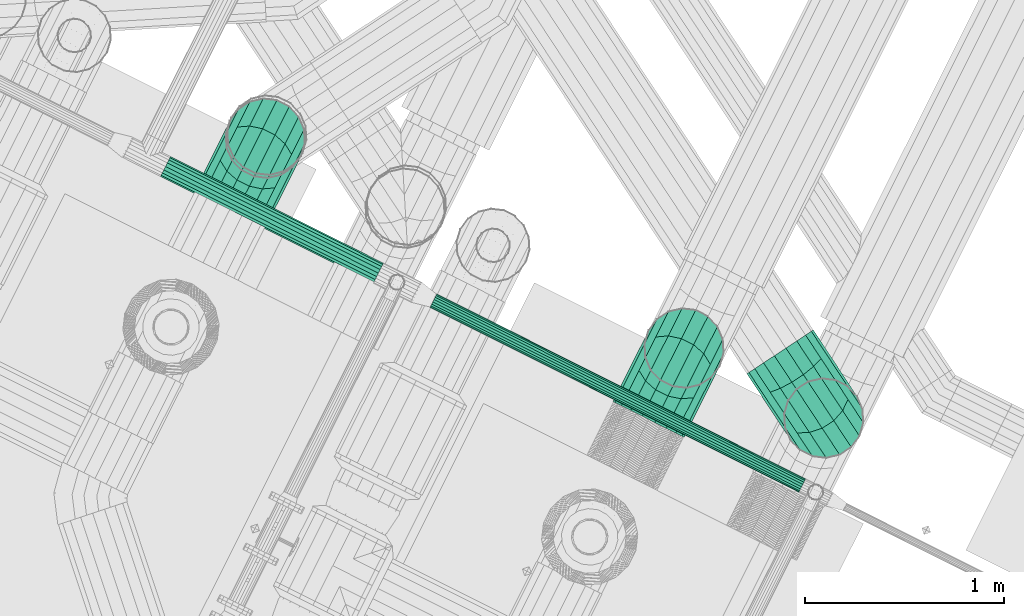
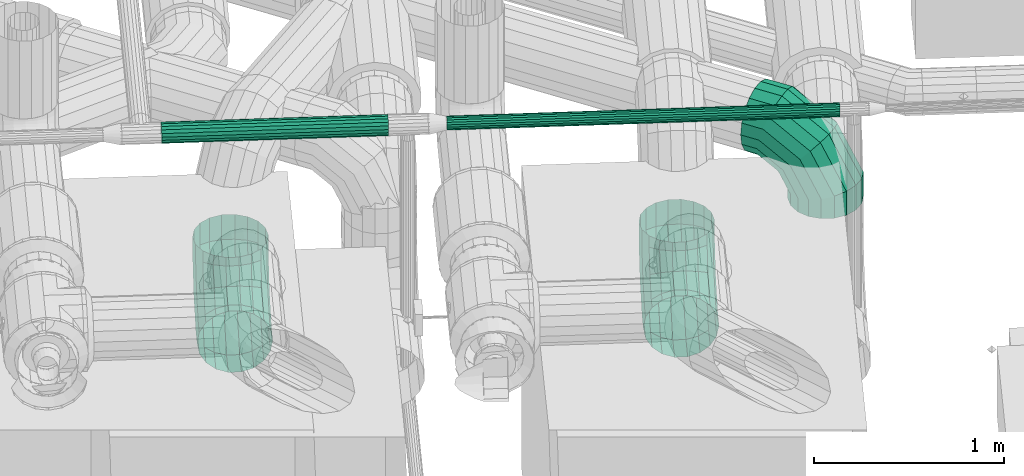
# One storey, part 15 of 206: 3 flow fittings, 2 flow segments.
"""IFC2X3 building model written with IfcOpenShell, lengths in metres."""

from ifc_helpers import new_model, si_unit, derived_unit, direction, frame, origin, place, context, subcontext, project, spatial, face_set, surface_model, source, transform, mapped, material, type_object, type_shapes, element, save


model = new_model("IFC2X3")

# Units and contexts
model_context = context("Model", 3, precision=5.2338327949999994e-05, world=origin(), true_north=direction((0.0, 1.0)))
body_context = subcontext(model_context, "Body", "Model", "MODEL_VIEW")
ifc_project = project(units=[si_unit("LENGTHUNIT", "METRE"), si_unit("AREAUNIT", "SQUARE_METRE"), si_unit("VOLUMEUNIT", "CUBIC_METRE"), si_unit("MASSUNIT", "GRAM", prefix="KILO"), si_unit("PLANEANGLEUNIT", "RADIAN"), derived_unit("THERMALTRANSMITTANCEUNIT", [(si_unit("MASSUNIT", "GRAM", prefix="KILO"), 1), (si_unit("THERMODYNAMICTEMPERATUREUNIT", "KELVIN"), -1), (si_unit("TIMEUNIT", "SECOND"), -3)])], contexts=[model_context])

# Site, building, storey
site_placement = place(None, frame((0.0, 0.0, 0.0), z_axis=(0.0, 0.0, 1.0), x_axis=(0.8939966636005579, -0.4480736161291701, 0.0)))
site = spatial("IfcSite", under=ifc_project, at=site_placement, Name="Default", CompositionType="ELEMENT")
building_placement = place(site_placement, origin())
building = spatial("IfcBuilding", under=site, at=building_placement, CompositionType="ELEMENT")
storey_placement = place(building_placement, origin())
storey = spatial("IfcBuildingStorey", under=building, at=storey_placement, Name="Erdgeschoss", CompositionType="ELEMENT", Elevation=0.0)

# Flow fittings
ifc_material_1 = material(Name="IfcSurfaceStyle #251447")
distribution_element_type_1 = type_object("IfcDistributionElementType", Name="Segmentbogen 4 teilig 281399:Segmentbogen 4 teilig 281399", material=ifc_material_1)
shared_shape_1 = source(origin(), body_context, "Body", "SurfaceModel", [
    surface_model("IfcFaceBasedSurfaceModel", [(27.415508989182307, 8.601413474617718, 1.7999999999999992), (27.350238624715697, 8.625169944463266, 1.7999999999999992), (27.350238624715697, 8.625169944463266, 1.888850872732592), (27.415508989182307, 8.601413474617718, 1.9071796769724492), (27.280779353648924, 8.62516994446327, 1.7999999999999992), (27.280779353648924, 8.62516994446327, 1.8727327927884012), (27.21550898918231, 8.601413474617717, 1.7999999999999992), (27.21550898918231, 8.601413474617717, 1.8607695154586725), (27.162300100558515, 8.556765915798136, 1.7999999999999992), (27.162300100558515, 8.556765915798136, 1.854403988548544), (27.127570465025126, 8.496612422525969, 1.7999999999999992), (27.127570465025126, 8.496612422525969, 1.854403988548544), (27.115508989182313, 8.42820839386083, 1.7999999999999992), (27.115508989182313, 8.42820839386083, 1.8607695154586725), (27.127570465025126, 8.3598043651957, 1.7999999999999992), (27.127570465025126, 8.3598043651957, 1.8727327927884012), (27.162300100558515, 8.299650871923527, 1.7999999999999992), (27.162300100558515, 8.299650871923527, 1.8888508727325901), (27.21550898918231, 8.255003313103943, 1.7999999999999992), (27.215508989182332, 8.255003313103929, 1.9071796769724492), (27.280779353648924, 8.231246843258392, 1.7999999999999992), (27.280779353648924, 8.231246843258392, 1.9255084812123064), (27.350238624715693, 8.23124684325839, 1.7999999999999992), (27.350238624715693, 8.23124684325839, 1.941626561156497), (27.415508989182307, 8.255003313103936, 1.7999999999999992), (27.415508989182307, 8.255003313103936, 1.9535898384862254), (27.468717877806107, 8.29965087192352, 1.7999999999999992), (27.468717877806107, 8.29965087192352, 1.959955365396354), (27.503447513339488, 8.359804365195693, 1.7999999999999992), (27.503447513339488, 8.359804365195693, 1.959955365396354), (27.515508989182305, 8.428208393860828, 1.7999999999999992), (27.515508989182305, 8.428208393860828, 1.9535898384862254), (27.50344751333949, 8.496612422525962, 1.7999999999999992), (27.50344751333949, 8.496612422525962, 1.941626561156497), (27.468717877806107, 8.556765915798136, 1.7999999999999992), (27.468717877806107, 8.556765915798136, 1.9255084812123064), (27.273291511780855, 8.669595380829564, 2.0427450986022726), (27.322688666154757, 8.655003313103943, 2.092820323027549), (27.21779090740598, 8.661536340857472, 1.9987096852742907), (27.16288104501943, 8.631798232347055, 1.9660254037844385), (27.115184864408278, 8.583967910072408, 1.948634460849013), (27.080455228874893, 8.523814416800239, 1.9486344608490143), (27.062881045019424, 8.458593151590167, 1.9660254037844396), (27.06458201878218, 8.396170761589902, 1.998709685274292), (27.085352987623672, 8.344076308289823, 2.0427450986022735), (27.122688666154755, 8.308593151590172, 2.0928203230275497), (27.172085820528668, 8.294001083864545, 2.1428955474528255), (27.22758642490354, 8.302060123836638, 2.18693096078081), (27.282496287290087, 8.331798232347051, 2.2196152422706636), (27.33019246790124, 8.379628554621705, 2.237006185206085), (27.36492210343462, 8.43978204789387, 2.2370061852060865), (27.38249628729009, 8.50500331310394, 2.219615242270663), (27.380795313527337, 8.56742570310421, 2.18693096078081), (27.360024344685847, 8.61952015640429, 2.1428955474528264), (27.14001520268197, 8.746542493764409, 2.131595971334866), (27.161919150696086, 8.747823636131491, 2.1999999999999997), (27.108691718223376, 8.724524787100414, 2.0714424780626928), (27.071726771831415, 8.684426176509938, 2.0267949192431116), (27.033578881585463, 8.631083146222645, 2.0030384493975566), (26.99884924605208, 8.570929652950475, 2.003038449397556), (26.971726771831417, 8.511221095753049, 2.0267949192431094), (26.955482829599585, 8.459159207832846, 2.0714424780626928), (26.95207667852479, 8.421023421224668, 2.131595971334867), (26.961919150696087, 8.401413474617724, 2.1999999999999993), (26.983823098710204, 8.402694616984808, 2.2684040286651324), (27.01514658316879, 8.424712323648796, 2.3285575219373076), (27.05211152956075, 8.464810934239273, 2.373205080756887), (27.090259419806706, 8.518153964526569, 2.39696155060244), (27.124989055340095, 8.578307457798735, 2.3969615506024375), (27.152111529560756, 8.638016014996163, 2.373205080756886), (27.16835547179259, 8.690077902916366, 2.328557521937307), (27.171761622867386, 8.72821368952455, 2.2684040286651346), (27.063068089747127, 8.790967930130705, 2.131595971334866), (27.069098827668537, 8.801413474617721, 2.1999999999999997), (27.045703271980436, 8.760891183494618, 2.0714424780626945), (27.019098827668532, 8.714810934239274, 2.0267949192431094), (26.986463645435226, 8.658285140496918, 2.0030384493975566), (26.951734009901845, 8.598131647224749, 2.0030384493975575), (26.919098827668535, 8.541605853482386, 2.0267949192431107), (26.892494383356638, 8.495525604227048, 2.071442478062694), (26.875129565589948, 8.465448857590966, 2.1315959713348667), (26.86909882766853, 8.455003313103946, 2.199999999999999), (26.875129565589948, 8.465448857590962, 2.2684040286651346), (26.892494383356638, 8.495525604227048, 2.328557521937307), (26.919098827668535, 8.541605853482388, 2.3732050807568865), (26.951734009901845, 8.598131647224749, 2.396961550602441), (26.986463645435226, 8.658285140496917, 2.3969615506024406), (27.019098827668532, 8.714810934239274, 2.3732050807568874), (27.045703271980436, 8.76089118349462, 2.328557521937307), (27.063068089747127, 8.790967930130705, 2.268404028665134)], [face_set([[[0, 1, 2, 3]], [[1, 4, 5, 2]], [[4, 6, 7, 5]], [[6, 8, 9, 7]], [[8, 10, 11, 9]], [[10, 12, 13, 11]], [[12, 14, 15, 13]], [[14, 16, 17, 15]], [[16, 18, 19, 17]], [[18, 20, 21, 19]], [[20, 22, 23, 21]], [[22, 24, 25, 23]], [[24, 26, 27, 25]], [[26, 28, 29, 27]], [[28, 30, 31, 29]], [[30, 32, 33, 31]], [[32, 34, 35, 33]], [[34, 0, 3, 35]], [[3, 2, 36, 37]], [[2, 5, 38, 36]], [[5, 7, 39, 38]], [[7, 9, 40, 39]], [[9, 11, 41, 40]], [[11, 13, 42, 41]], [[13, 15, 43, 42]], [[15, 17, 44, 43]], [[17, 19, 45, 44]], [[19, 21, 46, 45]], [[21, 23, 47, 46]], [[23, 25, 48, 47]], [[25, 27, 49, 48]], [[27, 29, 50, 49]], [[29, 31, 51, 50]], [[31, 33, 52, 51]], [[33, 35, 53, 52]], [[35, 3, 37, 53]], [[37, 36, 54, 55]], [[36, 38, 56, 54]], [[38, 39, 57, 56]], [[39, 40, 58, 57]], [[40, 41, 59, 58]], [[41, 42, 60, 59]], [[42, 43, 61, 60]], [[43, 44, 62, 61]], [[44, 45, 63, 62]], [[45, 46, 64, 63]], [[46, 47, 65, 64]], [[47, 48, 66, 65]], [[48, 49, 67, 66]], [[49, 50, 68, 67]], [[50, 51, 69, 68]], [[51, 52, 70, 69]], [[52, 53, 71, 70]], [[53, 37, 55, 71]], [[55, 54, 72, 73]], [[54, 56, 74, 72]], [[56, 57, 75, 74]], [[57, 58, 76, 75]], [[58, 59, 77, 76]], [[59, 60, 78, 77]], [[60, 61, 79, 78]], [[61, 62, 80, 79]], [[62, 63, 81, 80]], [[63, 64, 82, 81]], [[64, 65, 83, 82]], [[65, 66, 84, 83]], [[66, 67, 85, 84]], [[67, 68, 86, 85]], [[68, 69, 87, 86]], [[69, 70, 88, 87]], [[70, 71, 89, 88]], [[71, 55, 73, 89]]])]),
])
type_shapes(distribution_element_type_1, [shared_shape_1])
flow_fitting_1_placement = place(storey_placement, origin())
element("IfcFlowFitting", 1, at=flow_fitting_1_placement, inside=storey, type_object=distribution_element_type_1, material=ifc_material_1, Name="Segmentbogen 4 teilig", ObjectType="Segmentbogen 4 teilig", context=body_context, shape_type="MappedRepresentation", body=[
    mapped(shared_shape_1, transform((0.0, 0.0, 0.0), scale=1.0)),
])
distribution_element_type_2 = type_object("IfcDistributionElementType", Name="Segmentbogen 4 teilig 621900:Segmentbogen 4 teilig 621900", material=ifc_material_1)
shared_shape_2 = source(origin(), body_context, "Body", "SurfaceModel", [
    surface_model("IfcFaceBasedSurfaceModel", [(26.329823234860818, 8.028208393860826, 1.2800000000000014), (26.341884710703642, 8.028208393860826, 1.348404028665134), (26.341884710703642, 8.11705926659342, 1.348404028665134), (26.329823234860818, 8.135388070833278, 1.280000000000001), (26.376614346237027, 8.028208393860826, 1.4085575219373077), (26.376614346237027, 8.10094118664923, 1.4085575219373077), (26.42982323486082, 8.028208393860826, 1.4532050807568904), (26.42982323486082, 8.088977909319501, 1.4532050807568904), (26.495093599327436, 8.028208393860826, 1.4769615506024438), (26.495093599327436, 8.082612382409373, 1.4769615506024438), (26.564552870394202, 8.028208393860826, 1.4769615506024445), (26.564552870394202, 8.082612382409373, 1.4769615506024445), (26.629823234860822, 8.028208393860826, 1.4532050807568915), (26.629823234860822, 8.088977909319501, 1.4532050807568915), (26.683032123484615, 8.028208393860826, 1.40855752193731), (26.683032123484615, 8.10094118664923, 1.40855752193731), (26.717761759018, 8.028208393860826, 1.3484040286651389), (26.717761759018, 8.117059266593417, 1.3484040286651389), (26.729823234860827, 8.028208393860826, 1.2800000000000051), (26.72982323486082, 8.135388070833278, 1.2799999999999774), (26.717761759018, 8.028208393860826, 1.2115959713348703), (26.717761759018, 8.153716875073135, 1.2115959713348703), (26.683032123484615, 8.028208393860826, 1.1514424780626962), (26.683032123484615, 8.169834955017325, 1.1514424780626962), (26.629823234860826, 8.028208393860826, 1.106794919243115), (26.629823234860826, 8.181798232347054, 1.106794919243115), (26.564552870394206, 8.028208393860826, 1.0830384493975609), (26.564552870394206, 8.188163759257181, 1.0830384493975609), (26.49509359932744, 8.028208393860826, 1.08303844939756), (26.49509359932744, 8.188163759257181, 1.08303844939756), (26.429823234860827, 8.028208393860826, 1.1067949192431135), (26.429823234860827, 8.181798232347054, 1.1067949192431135), (26.376614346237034, 8.028208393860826, 1.1514424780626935), (26.376614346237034, 8.169834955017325, 1.1514424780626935), (26.341884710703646, 8.028208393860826, 1.2115959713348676), (26.341884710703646, 8.153716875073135, 1.2115959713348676), (26.341884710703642, 8.270953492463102, 1.4372549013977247), (26.329823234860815, 8.321028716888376, 1.3871796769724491), (26.376614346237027, 8.22691807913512, 1.4812903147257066), (26.429823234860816, 8.194233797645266, 1.5139745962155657), (26.495093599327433, 8.176842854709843, 1.531365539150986), (26.564552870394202, 8.176842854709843, 1.5313655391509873), (26.629823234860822, 8.194233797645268, 1.513974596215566), (26.683032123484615, 8.22691807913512, 1.481290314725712), (26.717761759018, 8.270953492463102, 1.43725490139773), (26.72982323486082, 8.321028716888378, 1.3871796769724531), (26.717761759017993, 8.371103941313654, 1.3371044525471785), (26.683032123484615, 8.415139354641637, 1.2930690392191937), (26.629823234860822, 8.447823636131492, 1.2603847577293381), (26.564552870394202, 8.465214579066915, 1.2429938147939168), (26.495093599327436, 8.465214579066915, 1.2429938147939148), (26.429823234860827, 8.447823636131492, 1.2603847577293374), (26.376614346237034, 8.415139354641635, 1.29306903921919), (26.341884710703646, 8.371103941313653, 1.3371044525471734), (26.341884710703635, 8.359804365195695, 1.5911491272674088), (26.329823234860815, 8.428208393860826, 1.572820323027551), (26.376614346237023, 8.29965087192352, 1.607267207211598), (26.429823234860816, 8.255003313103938, 1.6192304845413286), (26.495093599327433, 8.231246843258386, 1.6255960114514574), (26.564552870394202, 8.231246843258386, 1.6255960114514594), (26.62982323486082, 8.25500331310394, 1.6192304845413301), (26.68303212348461, 8.29965087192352, 1.6072672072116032), (26.717761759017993, 8.359804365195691, 1.5911491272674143), (26.729823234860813, 8.428208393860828, 1.5728203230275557), (26.717761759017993, 8.49661242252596, 1.554491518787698), (26.683032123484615, 8.556765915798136, 1.5383734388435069), (26.62982323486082, 8.601413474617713, 1.5264101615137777), (26.564552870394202, 8.625169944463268, 1.520044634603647), (26.495093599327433, 8.625169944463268, 1.5200446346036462), (26.429823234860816, 8.601413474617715, 1.5264101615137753), (26.376614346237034, 8.556765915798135, 1.5383734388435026), (26.341884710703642, 8.496612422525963, 1.5544915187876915), (26.341884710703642, 8.359804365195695, 1.6799999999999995), (26.32982323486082, 8.42820839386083, 1.6799999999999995), (26.376614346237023, 8.299650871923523, 1.6800000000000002), (26.429823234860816, 8.255003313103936, 1.6800000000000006), (26.495093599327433, 8.231246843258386, 1.6800000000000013), (26.564552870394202, 8.231246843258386, 1.680000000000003), (26.629823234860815, 8.255003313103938, 1.680000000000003), (26.683032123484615, 8.299650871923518, 1.6800000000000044), (26.71776175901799, 8.359804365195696, 1.6800000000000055), (26.72982323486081, 8.428208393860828, 1.6800000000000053), (26.71776175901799, 8.496612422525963, 1.6800000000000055), (26.68303212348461, 8.556765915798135, 1.6800000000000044), (26.629823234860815, 8.601413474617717, 1.680000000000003), (26.564552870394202, 8.62516994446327, 1.680000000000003), (26.495093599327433, 8.62516994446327, 1.6800000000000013), (26.429823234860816, 8.601413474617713, 1.6800000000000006), (26.376614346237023, 8.556765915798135, 1.6800000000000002), (26.34188471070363, 8.496612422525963, 1.6799999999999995)], [face_set([[[0, 1, 2, 3]], [[1, 4, 5, 2]], [[4, 6, 7, 5]], [[6, 8, 9, 7]], [[8, 10, 11, 9]], [[10, 12, 13, 11]], [[12, 14, 15, 13]], [[14, 16, 17, 15]], [[16, 18, 19, 17]], [[18, 20, 21, 19]], [[20, 22, 23, 21]], [[22, 24, 25, 23]], [[24, 26, 27, 25]], [[26, 28, 29, 27]], [[28, 30, 31, 29]], [[30, 32, 33, 31]], [[32, 34, 35, 33]], [[34, 0, 3, 35]], [[3, 2, 36, 37]], [[2, 5, 38, 36]], [[5, 7, 39, 38]], [[7, 9, 40, 39]], [[9, 11, 41, 40]], [[11, 13, 42, 41]], [[13, 15, 43, 42]], [[15, 17, 44, 43]], [[17, 19, 45, 44]], [[19, 21, 46, 45]], [[21, 23, 47, 46]], [[23, 25, 48, 47]], [[25, 27, 49, 48]], [[27, 29, 50, 49]], [[29, 31, 51, 50]], [[31, 33, 52, 51]], [[33, 35, 53, 52]], [[35, 3, 37, 53]], [[37, 36, 54, 55]], [[36, 38, 56, 54]], [[38, 39, 57, 56]], [[39, 40, 58, 57]], [[40, 41, 59, 58]], [[41, 42, 60, 59]], [[42, 43, 61, 60]], [[43, 44, 62, 61]], [[44, 45, 63, 62]], [[45, 46, 64, 63]], [[46, 47, 65, 64]], [[47, 48, 66, 65]], [[48, 49, 67, 66]], [[49, 50, 68, 67]], [[50, 51, 69, 68]], [[51, 52, 70, 69]], [[52, 53, 71, 70]], [[53, 37, 55, 71]], [[55, 54, 72, 73]], [[54, 56, 74, 72]], [[56, 57, 75, 74]], [[57, 58, 76, 75]], [[58, 59, 77, 76]], [[59, 60, 78, 77]], [[60, 61, 79, 78]], [[61, 62, 80, 79]], [[62, 63, 81, 80]], [[63, 64, 82, 81]], [[64, 65, 83, 82]], [[65, 66, 84, 83]], [[66, 67, 85, 84]], [[67, 68, 86, 85]], [[68, 69, 87, 86]], [[69, 70, 88, 87]], [[70, 71, 89, 88]], [[71, 55, 73, 89]]])]),
])
type_shapes(distribution_element_type_2, [shared_shape_2])
flow_fitting_2_placement = place(storey_placement, origin())
element("IfcFlowFitting", 2, at=flow_fitting_2_placement, inside=storey, type_object=distribution_element_type_2, material=ifc_material_1, Name="Segmentbogen 4 teilig", ObjectType="Segmentbogen 4 teilig", context=body_context, shape_type="MappedRepresentation", body=[
    mapped(shared_shape_2, transform((0.0, 0.0, 0.0), scale=1.0)),
])
distribution_element_type_3 = type_object("IfcDistributionElementType", Name="Segmentbogen 4 teilig 622065:Segmentbogen 4 teilig 622065", material=ifc_material_1)
shared_shape_3 = source(origin(), body_context, "Body", "SurfaceModel", [
    surface_model("IfcFaceBasedSurfaceModel", [(23.974821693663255, 8.028208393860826, 1.2800000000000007), (23.98688316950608, 8.028208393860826, 1.3484040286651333), (23.98688316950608, 8.11705926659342, 1.3484040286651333), (23.974821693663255, 8.135388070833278, 1.280000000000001), (24.021612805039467, 8.028208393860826, 1.4085575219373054), (24.021612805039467, 8.10094118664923, 1.4085575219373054), (24.07482169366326, 8.028208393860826, 1.4532050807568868), (24.07482169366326, 8.088977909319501, 1.4532050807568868), (24.140092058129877, 8.028208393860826, 1.476961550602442), (24.140092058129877, 8.082612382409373, 1.476961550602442), (24.209551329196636, 8.028208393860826, 1.4769615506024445), (24.209551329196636, 8.082612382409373, 1.4769615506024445), (24.274821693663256, 8.028208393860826, 1.4532050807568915), (24.274821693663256, 8.088977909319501, 1.4532050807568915), (24.32803058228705, 8.028208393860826, 1.40855752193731), (24.32803058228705, 8.10094118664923, 1.40855752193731), (24.362760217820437, 8.028208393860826, 1.3484040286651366), (24.362760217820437, 8.117059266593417, 1.3484040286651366), (24.374821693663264, 8.028208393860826, 1.2800000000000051), (24.37482169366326, 8.135388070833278, 1.2799999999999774), (24.362760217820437, 8.028208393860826, 1.2115959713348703), (24.362760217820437, 8.153716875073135, 1.2115959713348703), (24.328030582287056, 8.028208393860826, 1.1514424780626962), (24.328030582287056, 8.169834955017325, 1.1514424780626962), (24.274821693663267, 8.028208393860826, 1.106794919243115), (24.274821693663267, 8.181798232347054, 1.106794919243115), (24.209551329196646, 8.028208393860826, 1.0830384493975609), (24.209551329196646, 8.188163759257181, 1.0830384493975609), (24.14009205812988, 8.028208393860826, 1.08303844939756), (24.14009205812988, 8.188163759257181, 1.08303844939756), (24.074821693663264, 8.028208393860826, 1.106794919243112), (24.074821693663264, 8.181798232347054, 1.106794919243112), (24.02161280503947, 8.028208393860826, 1.1514424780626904), (24.02161280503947, 8.169834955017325, 1.1514424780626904), (23.98688316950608, 8.028208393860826, 1.2115959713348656), (23.98688316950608, 8.153716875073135, 1.2115959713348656), (23.986883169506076, 8.270953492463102, 1.4372549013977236), (23.97482169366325, 8.321028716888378, 1.3871796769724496), (24.021612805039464, 8.22691807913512, 1.4812903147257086), (24.074821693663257, 8.194233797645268, 1.5139745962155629), (24.140092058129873, 8.176842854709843, 1.531365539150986), (24.209551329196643, 8.176842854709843, 1.5313655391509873), (24.274821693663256, 8.194233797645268, 1.513974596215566), (24.32803058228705, 8.22691807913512, 1.481290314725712), (24.362760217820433, 8.270953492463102, 1.4372549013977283), (24.37482169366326, 8.321028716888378, 1.3871796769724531), (24.362760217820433, 8.371103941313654, 1.3371044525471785), (24.328030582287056, 8.415139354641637, 1.2930690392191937), (24.274821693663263, 8.447823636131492, 1.2603847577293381), (24.209551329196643, 8.465214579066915, 1.2429938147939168), (24.140092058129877, 8.465214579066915, 1.2429938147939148), (24.074821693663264, 8.447823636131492, 1.2603847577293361), (24.02161280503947, 8.415139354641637, 1.293069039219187), (23.986883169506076, 8.371103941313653, 1.3371044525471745), (23.986883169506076, 8.359804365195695, 1.5911491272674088), (23.974821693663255, 8.42820839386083, 1.5728203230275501), (24.021612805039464, 8.29965087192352, 1.6072672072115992), (24.074821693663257, 8.255003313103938, 1.6192304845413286), (24.140092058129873, 8.231246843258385, 1.625596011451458), (24.209551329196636, 8.231246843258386, 1.6255960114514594), (24.274821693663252, 8.25500331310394, 1.61923048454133), (24.328030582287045, 8.29965087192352, 1.6072672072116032), (24.362760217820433, 8.359804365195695, 1.5911491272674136), (24.374821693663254, 8.428208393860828, 1.5728203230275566), (24.362760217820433, 8.49661242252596, 1.554491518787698), (24.32803058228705, 8.556765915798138, 1.5383734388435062), (24.274821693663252, 8.601413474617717, 1.5264101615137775), (24.209551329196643, 8.625169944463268, 1.520044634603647), (24.140092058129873, 8.625169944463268, 1.5200446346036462), (24.074821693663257, 8.601413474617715, 1.5264101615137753), (24.021612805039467, 8.55676591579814, 1.5383734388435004), (23.986883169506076, 8.496612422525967, 1.554491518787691), (23.986883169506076, 8.359804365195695, 1.6799999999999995), (23.97482169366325, 8.428208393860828, 1.6799999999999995), (24.021612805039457, 8.29965087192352, 1.6800000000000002), (24.07482169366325, 8.255003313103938, 1.6800000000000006), (24.140092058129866, 8.231246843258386, 1.6800000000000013), (24.209551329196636, 8.231246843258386, 1.680000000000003), (24.27482169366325, 8.255003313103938, 1.680000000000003), (24.32803058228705, 8.299650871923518, 1.6800000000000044), (24.362760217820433, 8.359804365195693, 1.6800000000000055), (24.374821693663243, 8.42820839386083, 1.6800000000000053), (24.36276021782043, 8.496612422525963, 1.6800000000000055), (24.328030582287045, 8.556765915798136, 1.6800000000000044), (24.27482169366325, 8.601413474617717, 1.680000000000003), (24.209551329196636, 8.625169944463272, 1.680000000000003), (24.140092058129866, 8.62516994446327, 1.6800000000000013), (24.07482169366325, 8.601413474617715, 1.6800000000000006), (24.021612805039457, 8.556765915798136, 1.6800000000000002), (23.986883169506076, 8.496612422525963, 1.6799999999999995)], [face_set([[[0, 1, 2, 3]], [[1, 4, 5, 2]], [[4, 6, 7, 5]], [[6, 8, 9, 7]], [[8, 10, 11, 9]], [[10, 12, 13, 11]], [[12, 14, 15, 13]], [[14, 16, 17, 15]], [[16, 18, 19, 17]], [[18, 20, 21, 19]], [[20, 22, 23, 21]], [[22, 24, 25, 23]], [[24, 26, 27, 25]], [[26, 28, 29, 27]], [[28, 30, 31, 29]], [[30, 32, 33, 31]], [[32, 34, 35, 33]], [[34, 0, 3, 35]], [[3, 2, 36, 37]], [[2, 5, 38, 36]], [[5, 7, 39, 38]], [[7, 9, 40, 39]], [[9, 11, 41, 40]], [[11, 13, 42, 41]], [[13, 15, 43, 42]], [[15, 17, 44, 43]], [[17, 19, 45, 44]], [[19, 21, 46, 45]], [[21, 23, 47, 46]], [[23, 25, 48, 47]], [[25, 27, 49, 48]], [[27, 29, 50, 49]], [[29, 31, 51, 50]], [[31, 33, 52, 51]], [[33, 35, 53, 52]], [[35, 3, 37, 53]], [[37, 36, 54, 55]], [[36, 38, 56, 54]], [[38, 39, 57, 56]], [[39, 40, 58, 57]], [[40, 41, 59, 58]], [[41, 42, 60, 59]], [[42, 43, 61, 60]], [[43, 44, 62, 61]], [[44, 45, 63, 62]], [[45, 46, 64, 63]], [[46, 47, 65, 64]], [[47, 48, 66, 65]], [[48, 49, 67, 66]], [[49, 50, 68, 67]], [[50, 51, 69, 68]], [[51, 52, 70, 69]], [[52, 53, 71, 70]], [[53, 37, 55, 71]], [[55, 54, 72, 73]], [[54, 56, 74, 72]], [[56, 57, 75, 74]], [[57, 58, 76, 75]], [[58, 59, 77, 76]], [[59, 60, 78, 77]], [[60, 61, 79, 78]], [[61, 62, 80, 79]], [[62, 63, 81, 80]], [[63, 64, 82, 81]], [[64, 65, 83, 82]], [[65, 66, 84, 83]], [[66, 67, 85, 84]], [[67, 68, 86, 85]], [[68, 69, 87, 86]], [[69, 70, 88, 87]], [[70, 71, 89, 88]], [[71, 55, 73, 89]]])]),
])
type_shapes(distribution_element_type_3, [shared_shape_3])
flow_fitting_3_placement = place(storey_placement, origin())
element("IfcFlowFitting", 3, at=flow_fitting_3_placement, inside=storey, type_object=distribution_element_type_3, material=ifc_material_1, Name="Segmentbogen 4 teilig", ObjectType="Segmentbogen 4 teilig", context=body_context, shape_type="MappedRepresentation", body=[
    mapped(shared_shape_3, transform((0.0, 0.0, 0.0), scale=1.0)),
])

# Flow segments
ifc_material_2 = material(Name="IfcSurfaceStyle #352577")
distribution_element_type_4 = type_object("IfcDistributionElementType", Name="Stahlrohr nach DIN 2448 849145:Stahlrohr nach DIN 2448 849145", material=ifc_material_2)
shared_shape_4 = source(origin(), body_context, "Body", "SurfaceModel", [
    surface_model("IfcFaceBasedSurfaceModel", [(23.788830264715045, 8.077162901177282, 2.5480141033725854), (23.788830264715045, 8.096709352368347, 2.5514606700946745), (24.985640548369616, 8.096709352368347, 2.5514606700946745), (24.985640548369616, 8.077162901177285, 2.5480141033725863), (23.788830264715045, 8.113898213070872, 2.5613846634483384), (24.985640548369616, 8.113898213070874, 2.561384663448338), (23.788830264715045, 8.126656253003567, 2.5765891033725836), (24.985640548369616, 8.126656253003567, 2.576589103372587), (23.788830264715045, 8.133444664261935, 2.595240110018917), (24.985640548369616, 8.133444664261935, 2.5952401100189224), (23.788830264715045, 8.133444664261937, 2.6150880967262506), (24.985640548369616, 8.133444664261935, 2.6150880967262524), (23.788830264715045, 8.126656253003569, 2.633739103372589), (24.985640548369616, 8.126656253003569, 2.6337391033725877), (23.788830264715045, 8.113898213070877, 2.6489435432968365), (24.985640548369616, 8.113898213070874, 2.6489435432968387), (23.788830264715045, 8.096709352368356, 2.658867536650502), (24.985640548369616, 8.09670935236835, 2.6588675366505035), (23.788830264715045, 8.077162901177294, 2.6623141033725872), (24.985640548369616, 8.07716290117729, 2.662314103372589), (23.788830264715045, 8.057616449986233, 2.6588675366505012), (24.985640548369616, 8.057616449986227, 2.658867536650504), (23.788830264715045, 8.040427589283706, 2.648943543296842), (24.985640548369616, 8.040427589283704, 2.6489435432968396), (23.788830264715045, 8.027669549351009, 2.6337391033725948), (24.985640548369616, 8.027669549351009, 2.6337391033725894), (23.788830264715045, 8.020881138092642, 2.6150880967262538), (24.985640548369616, 8.02088113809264, 2.615088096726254), (23.788830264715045, 8.02088113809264, 2.59524011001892), (24.985640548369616, 8.020881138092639, 2.595240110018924), (23.788830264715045, 8.027669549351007, 2.576589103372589), (24.985640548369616, 8.027669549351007, 2.5765891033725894), (23.788830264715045, 8.0404275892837, 2.561384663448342), (24.985640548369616, 8.040427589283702, 2.56138466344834), (23.788830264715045, 8.057616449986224, 2.551460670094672), (24.985640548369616, 8.057616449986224, 2.551460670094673)], [face_set([[[0, 1, 2, 3]], [[1, 4, 5, 2]], [[4, 6, 7, 5]], [[6, 8, 9, 7]], [[8, 10, 11, 9]], [[10, 12, 13, 11]], [[12, 14, 15, 13]], [[14, 16, 17, 15]], [[16, 18, 19, 17]], [[18, 20, 21, 19]], [[20, 22, 23, 21]], [[22, 24, 25, 23]], [[24, 26, 27, 25]], [[26, 28, 29, 27]], [[28, 30, 31, 29]], [[30, 32, 33, 31]], [[32, 34, 35, 33]], [[34, 0, 3, 35]]])]),
])
type_shapes(distribution_element_type_4, [shared_shape_4])
flow_segment_1_placement = place(storey_placement, origin())
element("IfcFlowSegment", 4, at=flow_segment_1_placement, inside=storey, type_object=distribution_element_type_4, material=ifc_material_2, Name="Stahlrohr nach DIN 2448", ObjectType="Stahlrohr nach DIN 2448", context=body_context, shape_type="MappedRepresentation", body=[
    mapped(shared_shape_4, transform((0.0, 0.0, 0.0), scale=1.0)),
])
distribution_element_type_5 = type_object("IfcDistributionElementType", Name="Stahlrohr nach DIN 2448 849323:Stahlrohr nach DIN 2448 849323", material=ifc_material_2)
shared_shape_5 = source(origin(), body_context, "Body", "SurfaceModel", [
    surface_model("IfcFaceBasedSurfaceModel", [(25.295640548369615, 8.115212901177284, 2.6051641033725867), (25.295640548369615, 8.112918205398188, 2.61817796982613), (27.369642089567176, 8.112918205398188, 2.61817796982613), (27.369642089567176, 8.115212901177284, 2.6051641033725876), (25.295640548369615, 8.10631089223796, 2.629622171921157), (27.369642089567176, 8.106310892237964, 2.6296221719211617), (25.295640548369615, 8.096187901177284, 2.6381163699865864), (27.369642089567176, 8.096187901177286, 2.638116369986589), (25.295640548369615, 8.08377021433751, 2.6426360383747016), (27.369642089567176, 8.083770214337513, 2.642636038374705), (25.295640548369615, 8.070555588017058, 2.6426360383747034), (27.369642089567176, 8.070555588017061, 2.6426360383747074), (25.295640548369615, 8.058137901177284, 2.6381163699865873), (27.369642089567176, 8.058137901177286, 2.638116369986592), (25.295640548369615, 8.048014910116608, 2.629622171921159), (27.369642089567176, 8.048014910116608, 2.6296221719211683), (25.295640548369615, 8.04140759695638, 2.6181779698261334), (27.369642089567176, 8.04140759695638, 2.6181779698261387), (25.295640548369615, 8.039112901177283, 2.60516410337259), (27.369642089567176, 8.039112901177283, 2.6051641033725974), (25.295640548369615, 8.041407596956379, 2.5921502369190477), (27.369642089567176, 8.041407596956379, 2.592150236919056), (25.295640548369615, 8.048014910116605, 2.5807060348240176), (27.369642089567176, 8.048014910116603, 2.5807060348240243), (25.295640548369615, 8.058137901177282, 2.5722118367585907), (27.369642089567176, 8.058137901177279, 2.5722118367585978), (25.295640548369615, 8.070555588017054, 2.5676921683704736), (27.369642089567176, 8.07055558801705, 2.5676921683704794), (25.295640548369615, 8.083770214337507, 2.567692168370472), (27.369642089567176, 8.083770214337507, 2.5676921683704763), (25.295640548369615, 8.096187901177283, 2.5722118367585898), (27.369642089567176, 8.096187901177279, 2.572211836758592), (25.295640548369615, 8.106310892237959, 2.5807060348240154), (27.369642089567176, 8.106310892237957, 2.5807060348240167), (25.295640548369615, 8.112918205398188, 2.5921502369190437), (27.369642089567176, 8.112918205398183, 2.592150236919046)], [face_set([[[0, 1, 2, 3]], [[1, 4, 5, 2]], [[4, 6, 7, 5]], [[6, 8, 9, 7]], [[8, 10, 11, 9]], [[10, 12, 13, 11]], [[12, 14, 15, 13]], [[14, 16, 17, 15]], [[16, 18, 19, 17]], [[18, 20, 21, 19]], [[20, 22, 23, 21]], [[22, 24, 25, 23]], [[24, 26, 27, 25]], [[26, 28, 29, 27]], [[28, 30, 31, 29]], [[30, 32, 33, 31]], [[32, 34, 35, 33]], [[34, 0, 3, 35]]])]),
])
type_shapes(distribution_element_type_5, [shared_shape_5])
flow_segment_2_placement = place(storey_placement, origin())
element("IfcFlowSegment", 5, at=flow_segment_2_placement, inside=storey, type_object=distribution_element_type_5, material=ifc_material_2, Name="Stahlrohr nach DIN 2448", ObjectType="Stahlrohr nach DIN 2448", context=body_context, shape_type="MappedRepresentation", body=[
    mapped(shared_shape_5, transform((0.0, 0.0, 0.0), scale=1.0)),
])

save(model, "model.ifc")
